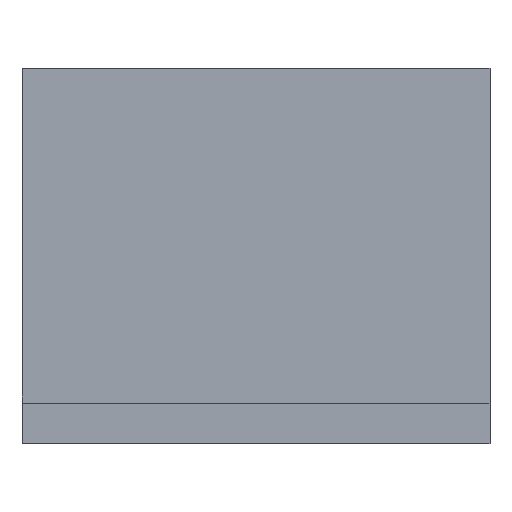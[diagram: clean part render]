
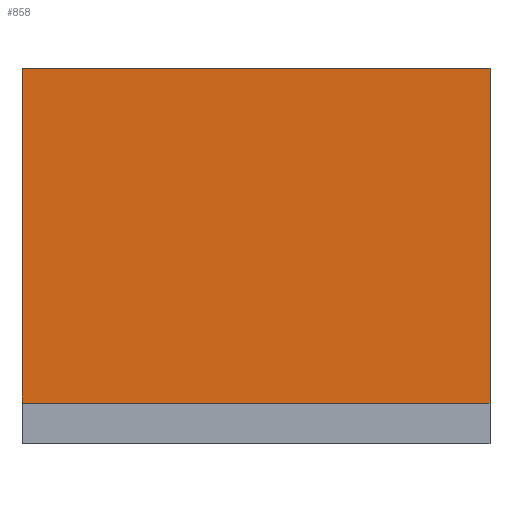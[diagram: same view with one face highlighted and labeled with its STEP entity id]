
A CAD part, front view. The second image highlights one B-rep face of the part: STEP entity #858.
In plain terms, the highlighted planar face has unit normal (0, -1, 0).
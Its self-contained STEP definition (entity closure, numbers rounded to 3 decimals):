
#257=CARTESIAN_POINT('Vertex',(0.,0.,-41.)) ;
#273=CARTESIAN_POINT('Vertex',(57.3,0.,-41.)) ;
#276=CARTESIAN_POINT('Line Origine',(28.65,0.,-41.)) ;
#828=CARTESIAN_POINT('Axis2P3D Location',(0.,0.,0.)) ;
#833=CARTESIAN_POINT('Line Origine',(0.,0.,-20.5)) ;
#837=CARTESIAN_POINT('Vertex',(0.,0.,0.)) ;
#840=CARTESIAN_POINT('Line Origine',(57.3,0.,-20.5)) ;
#844=CARTESIAN_POINT('Vertex',(57.3,0.,0.)) ;
#847=CARTESIAN_POINT('Line Origine',(28.65,0.,0.)) ;
#277=DIRECTION('Vector Direction',(-1.,0.,0.)) ;
#829=DIRECTION('Axis2P3D Direction',(0.,-1.,0.)) ;
#830=DIRECTION('Axis2P3D XDirection',(0.,0.,-1.)) ;
#834=DIRECTION('Vector Direction',(0.,0.,-1.)) ;
#841=DIRECTION('Vector Direction',(0.,0.,-1.)) ;
#848=DIRECTION('Vector Direction',(1.,0.,0.)) ;
#831=AXIS2_PLACEMENT_3D('Plane Axis2P3D',#828,#829,#830) ;
#853=ORIENTED_EDGE('',*,*,#839,.T.) ;
#854=ORIENTED_EDGE('',*,*,#280,.F.) ;
#855=ORIENTED_EDGE('',*,*,#846,.F.) ;
#856=ORIENTED_EDGE('',*,*,#851,.F.) ;
#278=VECTOR('Line Direction',#277,1.) ;
#835=VECTOR('Line Direction',#834,1.) ;
#842=VECTOR('Line Direction',#841,1.) ;
#849=VECTOR('Line Direction',#848,1.) ;
#858=ADVANCED_FACE('Hauptk\X2\00F6\X0\rper',(#857),#832,.T.) ;
#280=EDGE_CURVE('',#274,#258,#279,.T.) ;
#839=EDGE_CURVE('',#838,#258,#836,.T.) ;
#846=EDGE_CURVE('',#845,#274,#843,.T.) ;
#851=EDGE_CURVE('',#838,#845,#850,.T.) ;
#852=EDGE_LOOP('',(#853,#854,#855,#856)) ;
#857=FACE_OUTER_BOUND('',#852,.T.) ;
#279=LINE('Line',#276,#278) ;
#836=LINE('Line',#833,#835) ;
#843=LINE('Line',#840,#842) ;
#850=LINE('Line',#847,#849) ;
#832=PLANE('',#831) ;
#258=VERTEX_POINT('',#257) ;
#274=VERTEX_POINT('',#273) ;
#838=VERTEX_POINT('',#837) ;
#845=VERTEX_POINT('',#844) ;
